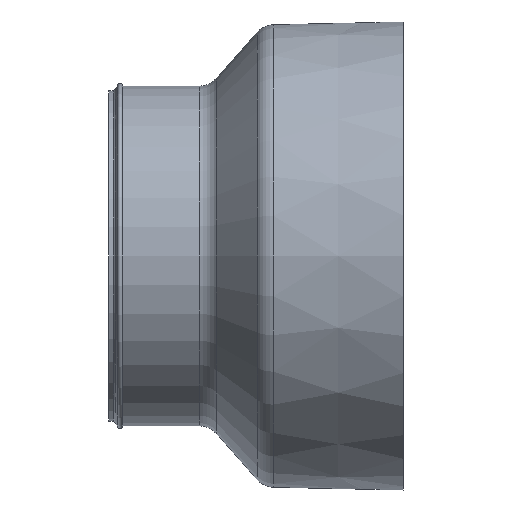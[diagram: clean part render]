
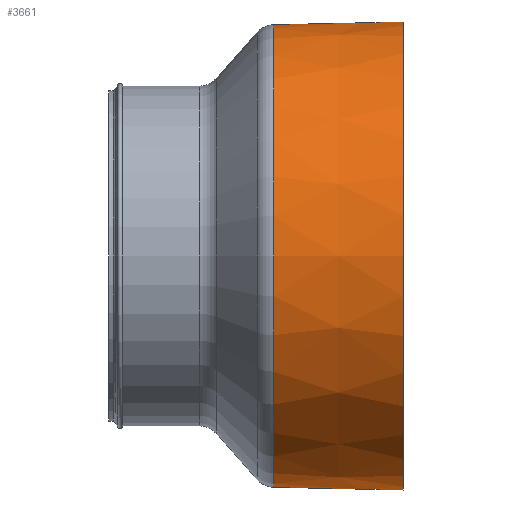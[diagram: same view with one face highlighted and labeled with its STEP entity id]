
A CAD part, front view. The second image highlights one B-rep face of the part: STEP entity #3661.
In plain terms, the highlighted conical face has half-angle 1.202 degrees and reference radius 51.374 mm.
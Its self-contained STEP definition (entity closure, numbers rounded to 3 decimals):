
#20=DIRECTION('',(-1.,0.,-0.021));
#21=VECTOR('',#20,19.068);
#22=CARTESIAN_POINT('',(-9.553,0.,51.474));
#23=LINE('',#22,#21);
#24=DIRECTION('',(-1.,0.,-0.021));
#25=VECTOR('',#24,6.445);
#26=CARTESIAN_POINT('',(0.,0.,51.674));
#27=LINE('',#26,#25);
#28=CARTESIAN_POINT('',(-9.553,0.,-51.474));
#29=CARTESIAN_POINT('',(-9.553,-0.14,
-51.474));
#30=CARTESIAN_POINT('',(-9.516,-0.408,
-51.473));
#31=CARTESIAN_POINT('',(-9.36,-0.786,
-51.472));
#32=CARTESIAN_POINT('',(-9.113,-1.107,-51.471));
#33=CARTESIAN_POINT('',(-8.794,-1.355,-51.472));
#34=CARTESIAN_POINT('',(-8.417,-1.515,-51.475));
#35=CARTESIAN_POINT('',(-7.998,-1.573,-51.482));
#36=CARTESIAN_POINT('',(-7.585,-1.517,-51.493));
#37=CARTESIAN_POINT('',(-7.205,-1.357,-51.505));
#38=CARTESIAN_POINT('',(-6.88,-1.105,-51.518));
#39=CARTESIAN_POINT('',(-6.633,-0.78,
-51.53));
#40=CARTESIAN_POINT('',(-6.479,-0.401,
-51.537));
#41=CARTESIAN_POINT('',(-6.443,-0.137,
-51.539));
#42=CARTESIAN_POINT('',(-6.443,0.,-51.539));
#44=DIRECTION('',(-1.,0.,0.021));
#45=VECTOR('',#44,19.068);
#46=CARTESIAN_POINT('',(-9.553,0.,-51.474));
#47=LINE('',#46,#45);
#48=CARTESIAN_POINT('',(-6.443,0.,-51.539));
#64=DIRECTION('',(-1.,0.,0.021));
#65=VECTOR('',#64,6.445);
#66=CARTESIAN_POINT('',(0.,0.,-51.674));
#67=LINE('',#66,#65);
#878=CARTESIAN_POINT('',(0.,0.,0.));
#879=DIRECTION('',(1.,0.,0.));
#880=DIRECTION('',(0.,0.,1.));
#881=AXIS2_PLACEMENT_3D('',#878,#879,#880);
#3032=CARTESIAN_POINT('',(-28.617,0.,0.));
#3033=DIRECTION('',(-1.,0.,0.));
#3034=DIRECTION('',(0.,0.,-1.));
#3035=AXIS2_PLACEMENT_3D('',#3032,#3033,#3034);
#3066=CARTESIAN_POINT('',(-9.553,0.,51.474));
#3067=CARTESIAN_POINT('',(-9.553,-0.135,
51.474));
#3068=CARTESIAN_POINT('',(-9.518,-0.405,
51.473));
#3069=CARTESIAN_POINT('',(-9.36,-0.786,
51.472));
#3070=CARTESIAN_POINT('',(-9.107,-1.114,
51.471));
#3071=CARTESIAN_POINT('',(-8.783,-1.362,
51.472));
#3072=CARTESIAN_POINT('',(-8.394,-1.522,
51.476));
#3073=CARTESIAN_POINT('',(-7.978,-1.572,
51.483));
#3074=CARTESIAN_POINT('',(-7.569,-1.512,
51.493));
#3075=CARTESIAN_POINT('',(-7.189,-1.347,
51.506));
#3076=CARTESIAN_POINT('',(-6.876,-1.1,
51.519));
#3077=CARTESIAN_POINT('',(-6.631,-0.777,
51.53));
#3078=CARTESIAN_POINT('',(-6.478,-0.402,
51.537));
#3079=CARTESIAN_POINT('',(-6.443,-0.134,
51.539));
#3080=CARTESIAN_POINT('',(-6.443,0.,51.539));
#3102=CARTESIAN_POINT('',(-9.553,0.,-51.474));
#3104=VERTEX_POINT('',#3102);
#3108=VERTEX_POINT('',#48);
#3113=CARTESIAN_POINT('',(-9.553,0.,51.474));
#3114=VERTEX_POINT('',#3113);
#3115=VERTEX_POINT('',#3080);
#3264=CARTESIAN_POINT('',(-28.617,0.,51.074));
#3265=VERTEX_POINT('',#3264);
#3266=CARTESIAN_POINT('',(-28.617,0.,-51.074));
#3267=VERTEX_POINT('',#3266);
#3300=CARTESIAN_POINT('',(0.,0.,51.674));
#3301=VERTEX_POINT('',#3300);
#3302=CARTESIAN_POINT('',(0.,0.,-51.674));
#3303=VERTEX_POINT('',#3302);
#3639=CARTESIAN_POINT('',(-14.309,0.,0.));
#3640=DIRECTION('',(1.,0.,0.));
#3641=DIRECTION('',(0.,0.,-1.));
#3642=AXIS2_PLACEMENT_3D('',#3639,#3640,#3641);
#3643=CONICAL_SURFACE('',#3642,51.374,1.202);
#3645=ORIENTED_EDGE('',*,*,#3644,.F.);
#3647=ORIENTED_EDGE('',*,*,#3646,.T.);
#3649=ORIENTED_EDGE('',*,*,#3648,.F.);
#3651=ORIENTED_EDGE('',*,*,#3650,.T.);
#3653=ORIENTED_EDGE('',*,*,#3652,.T.);
#3654=ORIENTED_EDGE('',*,*,#3632,.F.);
#3656=ORIENTED_EDGE('',*,*,#3655,.T.);
#3658=ORIENTED_EDGE('',*,*,#3657,.T.);
#3659=EDGE_LOOP('',(#3645,#3647,#3649,#3651,#3653,#3654,#3656,#3658));
#3660=FACE_OUTER_BOUND('',#3659,.F.);
#3661=ADVANCED_FACE('',(#3660),#3643,.T.);
#43=B_SPLINE_CURVE_WITH_KNOTS('',3,(#28,#29,#30,#31,#32,#33,#34,#35,#36,#37,#38,
#39,#40,#41,#42),.UNSPECIFIED.,.F.,.F.,(4,1,1,1,1,1,1,1,1,1,1,1,4),(0.,
0.083,0.167,0.25,0.333,0.417,
0.5,0.583,0.667,0.75,0.833,
0.917,1.),.UNSPECIFIED.);
#882=CIRCLE('',#881,51.674);
#3036=CIRCLE('',#3035,51.074);
#3081=B_SPLINE_CURVE_WITH_KNOTS('',3,(#3066,#3067,#3068,#3069,#3070,#3071,#3072,
#3073,#3074,#3075,#3076,#3077,#3078,#3079,#3080),.UNSPECIFIED.,.F.,.F.,(4,1,1,1,
1,1,1,1,1,1,1,1,4),(0.,0.083,0.167,0.25,
0.333,0.417,0.5,0.583,0.667,
0.75,0.833,0.917,1.),.UNSPECIFIED.);
#3632=EDGE_CURVE('',#3104,#3108,#43,.T.);
#3644=EDGE_CURVE('',#3114,#3265,#23,.T.);
#3646=EDGE_CURVE('',#3114,#3115,#3081,.T.);
#3648=EDGE_CURVE('',#3301,#3115,#27,.T.);
#3650=EDGE_CURVE('',#3301,#3303,#882,.T.);
#3652=EDGE_CURVE('',#3303,#3108,#67,.T.);
#3655=EDGE_CURVE('',#3104,#3267,#47,.T.);
#3657=EDGE_CURVE('',#3267,#3265,#3036,.T.);
